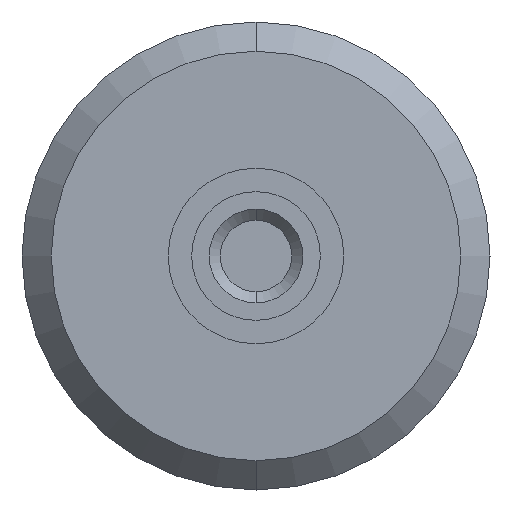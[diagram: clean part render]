
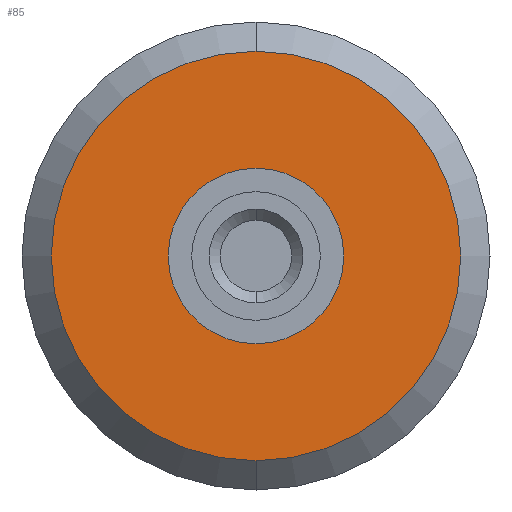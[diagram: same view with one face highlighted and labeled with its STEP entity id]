
A CAD part, front view. The second image highlights one B-rep face of the part: STEP entity #85.
In plain terms, the highlighted planar face has unit normal (0, -1, 0).
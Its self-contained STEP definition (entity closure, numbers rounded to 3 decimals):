
#39=FACE_BOUND('',#141,.F.);
#44=PLANE('',#649);
#85=ADVANCED_FACE('',(#39,#112),#44,.T.);
#112=FACE_OUTER_BOUND('',#142,.F.);
#141=EDGE_LOOP('',(#198,#199));
#142=EDGE_LOOP('',(#200,#201));
#198=ORIENTED_EDGE('',*,*,#500,.T.);
#199=ORIENTED_EDGE('',*,*,#508,.T.);
#200=ORIENTED_EDGE('',*,*,#522,.F.);
#201=ORIENTED_EDGE('',*,*,#512,.F.);
#500=EDGE_CURVE('',#603,#602,#552,.T.);
#508=EDGE_CURVE('',#602,#603,#556,.T.);
#512=EDGE_CURVE('',#595,#594,#560,.T.);
#522=EDGE_CURVE('',#594,#595,#564,.T.);
#552=CIRCLE('',#618,1.5);
#556=CIRCLE('',#622,1.5);
#560=CIRCLE('',#626,3.5);
#564=CIRCLE('',#630,3.5);
#594=VERTEX_POINT('',#834);
#595=VERTEX_POINT('',#835);
#602=VERTEX_POINT('',#842);
#603=VERTEX_POINT('',#843);
#618=AXIS2_PLACEMENT_3D('',#848,#683,#684);
#622=AXIS2_PLACEMENT_3D('',#856,#695,#696);
#626=AXIS2_PLACEMENT_3D('',#860,#703,#704);
#630=AXIS2_PLACEMENT_3D('',#870,#717,#718);
#649=AXIS2_PLACEMENT_3D('',#893,#759,#760);
#683=DIRECTION('',(0.,-1.,0.));
#684=DIRECTION('',(0.,0.,1.));
#695=DIRECTION('',(0.,-1.,0.));
#696=DIRECTION('',(0.,0.,-1.));
#703=DIRECTION('',(0.,-1.,0.));
#704=DIRECTION('',(0.,0.,-1.));
#717=DIRECTION('',(0.,-1.,0.));
#718=DIRECTION('',(0.,0.,1.));
#759=DIRECTION('',(0.,-1.,0.));
#760=DIRECTION('',(-1.,0.,0.));
#834=CARTESIAN_POINT('',(195.,48.125,325.275));
#835=CARTESIAN_POINT('',(195.,48.125,318.275));
#842=CARTESIAN_POINT('',(195.,48.125,320.275));
#843=CARTESIAN_POINT('',(195.,48.125,323.275));
#848=CARTESIAN_POINT('',(195.,48.125,321.775));
#856=CARTESIAN_POINT('',(195.,48.125,321.775));
#860=CARTESIAN_POINT('',(195.,48.125,321.775));
#870=CARTESIAN_POINT('',(195.,48.125,321.775));
#893=CARTESIAN_POINT('',(198.57,48.125,325.345));
